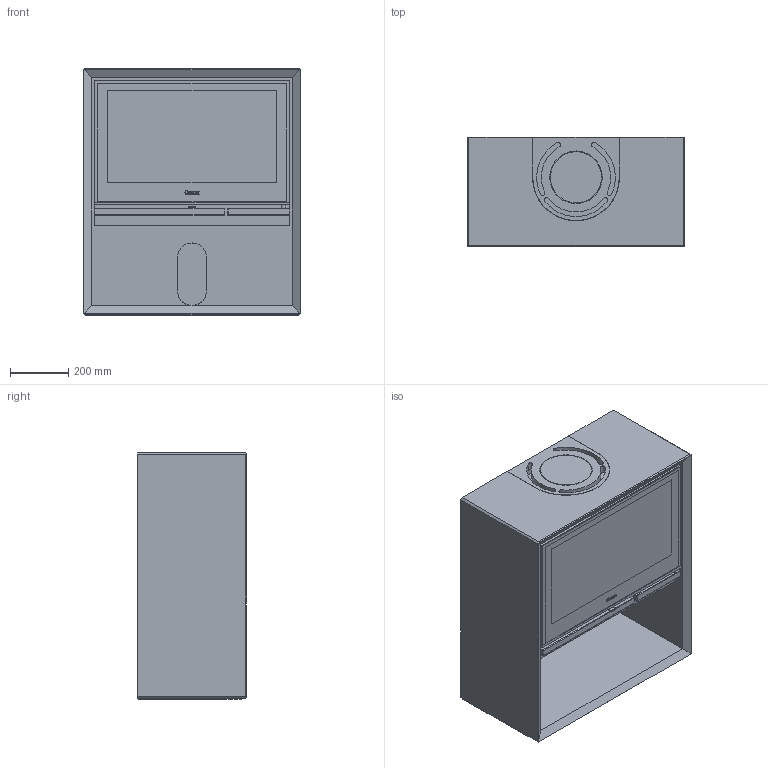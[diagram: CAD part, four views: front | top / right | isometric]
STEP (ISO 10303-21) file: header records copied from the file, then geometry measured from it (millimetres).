
FILE_DESCRIPTION(/* description */ ('Unknown','CAx-IF Rec.Pracs.---Representation and Presentation of Product Manufacturing Information (PMI)---4.0---2014-10-13','CAx-IF Rec.Pracs.---3D Tessellated Geometry---0.4---2014-09-14','2;1'),/* implementation_level */ '2;1');
FILE_NAME(/* name */ 'C310G Assembly',/* time_stamp */ '2016-12-29T10:09:16+01:00',/* author */ ('Unknown'),/* organization */ ('Unknown'),/* preprocessor_version */ 'ST-DEVELOPER v16.7',/* originating_system */ 'DEX',/* authorisation */ $);
FILE_SCHEMA (('AP242_MANAGED_MODEL_BASED_3D_ENGINEERING_MIM_LF { 1 0 10303 442 20130219 1 4 }'));
Length unit declared in the file: millimetre
Products named in the file (9): DSN1015759; DSN1015718; DSN1015714; DSN1015708; DSN1015711; DSN1015784; DSN1015785; DSN1015741; DSN1015743
Assembly tree (8 placements, depth 2):
  DSN1015759
    DSN1015718
    DSN1015714
    DSN1015708
    DSN1015711
    DSN1015784
    DSN1015785
    DSN1015741
    DSN1015743
Bounding box: 750 x 375 x 849 mm (x, y, z)
Volume: 107094072.6 mm3; surface area: 8625500.9 mm2
Topology: 11 solids, 11 shells, 779 faces, 2030 edges, 1351 vertices
Faces by surface type: plane 519, bspline 141, cylinder 97, sphere 14, torus 8
Full cylindrical faces by diameter (mm): 14 x1, 169 x1, 171.8 x1, 172 x1, 176 x1, 181 x1
Entity records: 30465 total; most frequent: CARTESIAN_POINT 12438, ORIENTED_EDGE 3978, DIRECTION 2954, EDGE_CURVE 1989, VERTEX_POINT 1348, LINE 1050, VECTOR 1050, AXIS2_PLACEMENT_3D 952
